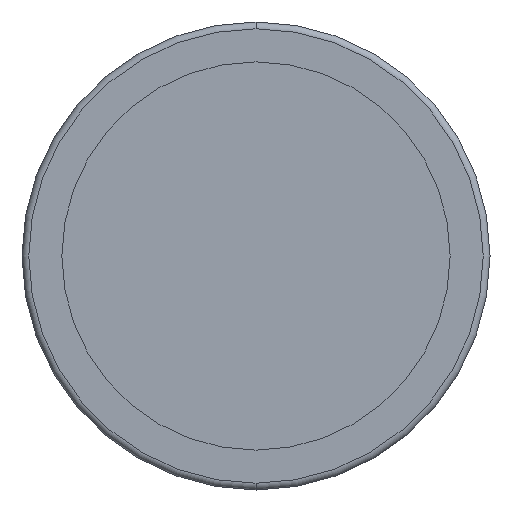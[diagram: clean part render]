
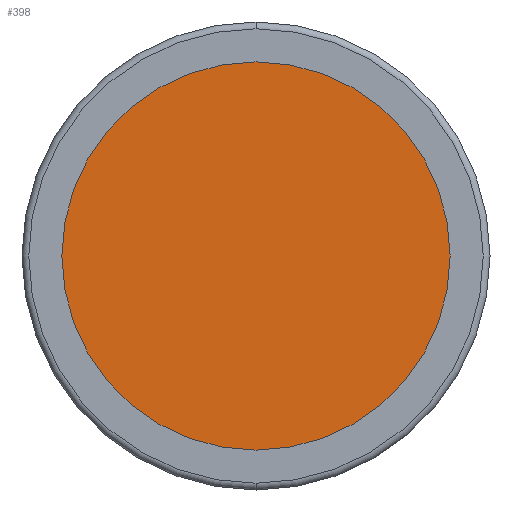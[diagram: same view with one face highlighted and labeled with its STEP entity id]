
A CAD part, front view. The second image highlights one B-rep face of the part: STEP entity #398.
In plain terms, the highlighted planar face has unit normal (0, -1, 0).
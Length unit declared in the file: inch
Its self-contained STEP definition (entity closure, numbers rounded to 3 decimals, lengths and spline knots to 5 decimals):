
#11 = CARTESIAN_POINT ( 'NONE',  ( 0., -0.564, 0. ) ) ;
#62 = AXIS2_PLACEMENT_3D ( 'NONE', #1301, #667, #460 ) ;
#89 = VERTEX_POINT ( 'NONE', #212 ) ;
#212 = CARTESIAN_POINT ( 'NONE',  ( 0., -0.564, 0.5715 ) ) ;
#222 = PLANE ( 'NONE',  #687 ) ;
#295 = AXIS2_PLACEMENT_3D ( 'NONE', #1183, #1061, #1072 ) ;
#329 = EDGE_CURVE ( 'NONE', #89, #1364, #856, .T. ) ;
#389 = ORIENTED_EDGE ( 'NONE', *, *, #329, .T. ) ;
#398 = ADVANCED_FACE ( 'NONE', ( #978 ), #222, .T. ) ;
#424 = DIRECTION ( 'NONE',  ( 0., 0., -1. ) ) ;
#460 = DIRECTION ( 'NONE',  ( 0., 0., -1. ) ) ;
#576 = ORIENTED_EDGE ( 'NONE', *, *, #1089, .T. ) ;
#667 = DIRECTION ( 'NONE',  ( 0., -1., 0. ) ) ;
#687 = AXIS2_PLACEMENT_3D ( 'NONE', #11, #1285, #424 ) ;
#856 = CIRCLE ( 'NONE', #295, 0.5715 ) ;
#954 = CARTESIAN_POINT ( 'NONE',  ( 0., -0.564, -0.5715 ) ) ;
#978 = FACE_OUTER_BOUND ( 'NONE', #1264, .T. ) ;
#1061 = DIRECTION ( 'NONE',  ( 0., -1., 0. ) ) ;
#1072 = DIRECTION ( 'NONE',  ( 0., 0., -1. ) ) ;
#1089 = EDGE_CURVE ( 'NONE', #1364, #89, #1344, .T. ) ;
#1183 = CARTESIAN_POINT ( 'NONE',  ( 0., -0.564, 0. ) ) ;
#1264 = EDGE_LOOP ( 'NONE', ( #389, #576 ) ) ;
#1285 = DIRECTION ( 'NONE',  ( 0., -1., 0. ) ) ;
#1301 = CARTESIAN_POINT ( 'NONE',  ( 0., -0.564, 0. ) ) ;
#1344 = CIRCLE ( 'NONE', #62, 0.5715 ) ;
#1364 = VERTEX_POINT ( 'NONE', #954 ) ;
